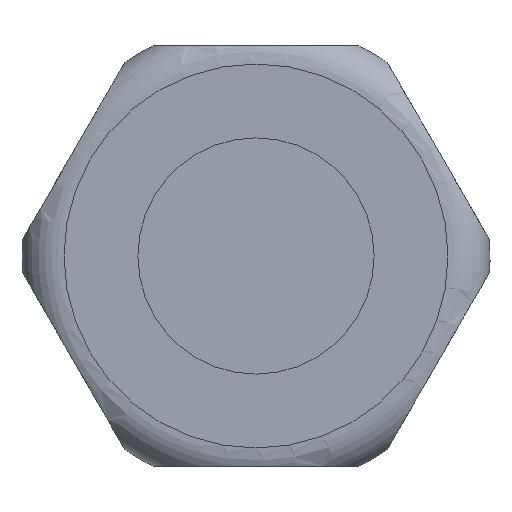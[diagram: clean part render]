
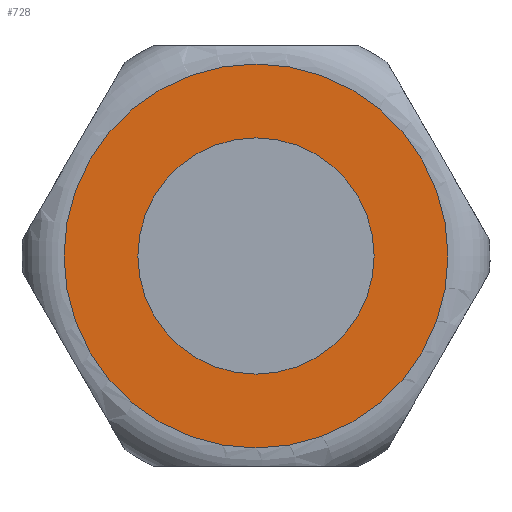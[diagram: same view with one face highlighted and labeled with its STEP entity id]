
A CAD part, left-side view. The second image highlights one B-rep face of the part: STEP entity #728.
In plain terms, the highlighted planar face has unit normal (-1, 0, 0).
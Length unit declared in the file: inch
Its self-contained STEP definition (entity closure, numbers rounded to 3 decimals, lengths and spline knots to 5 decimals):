
#16=FACE_BOUND('',#116,.T.);
#57=PLANE('',#814);
#77=FACE_OUTER_BOUND('',#115,.T.);
#115=EDGE_LOOP('',(#546,#547));
#116=EDGE_LOOP('',(#548,#549));
#199=CIRCLE('',#770,0.31496);
#200=CIRCLE('',#771,0.31496);
#226=CIRCLE('',#815,0.51181);
#227=CIRCLE('',#816,0.51181);
#262=VERTEX_POINT('',#1104);
#263=VERTEX_POINT('',#1105);
#302=VERTEX_POINT('',#1365);
#303=VERTEX_POINT('',#1366);
#336=EDGE_CURVE('',#262,#263,#199,.T.);
#337=EDGE_CURVE('',#263,#262,#200,.T.);
#393=EDGE_CURVE('',#302,#303,#226,.T.);
#394=EDGE_CURVE('',#303,#302,#227,.T.);
#546=ORIENTED_EDGE('',*,*,#393,.F.);
#547=ORIENTED_EDGE('',*,*,#394,.F.);
#548=ORIENTED_EDGE('',*,*,#336,.T.);
#549=ORIENTED_EDGE('',*,*,#337,.T.);
#728=ADVANCED_FACE('',(#77,#16),#57,.T.);
#770=AXIS2_PLACEMENT_3D('',#1106,#873,#874);
#771=AXIS2_PLACEMENT_3D('',#1107,#875,#876);
#814=AXIS2_PLACEMENT_3D('',#1364,#977,#978);
#815=AXIS2_PLACEMENT_3D('',#1367,#979,#980);
#816=AXIS2_PLACEMENT_3D('',#1368,#981,#982);
#873=DIRECTION('center_axis',(1.,0.,0.));
#874=DIRECTION('ref_axis',(0.,0.866,0.5));
#875=DIRECTION('center_axis',(1.,0.,0.));
#876=DIRECTION('ref_axis',(0.,0.866,0.5));
#977=DIRECTION('center_axis',(-1.,0.,0.));
#978=DIRECTION('ref_axis',(0.,0.866,0.5));
#979=DIRECTION('center_axis',(1.,0.,0.));
#980=DIRECTION('ref_axis',(0.,-0.866,-0.5));
#981=DIRECTION('center_axis',(1.,0.,0.));
#982=DIRECTION('ref_axis',(0.,-0.866,-0.5));
#1104=CARTESIAN_POINT('',(-2.39188,0.37407,-0.18686));
#1105=CARTESIAN_POINT('',(-2.39188,-0.17146,-0.50182));
#1106=CARTESIAN_POINT('Origin',(-2.39188,0.1013,-0.34434));
#1107=CARTESIAN_POINT('Origin',(-2.39188,0.1013,-0.34434));
#1364=CARTESIAN_POINT('Origin',(-2.39188,-0.34194,-0.60025));
#1365=CARTESIAN_POINT('',(-2.39188,-0.34194,-0.60025));
#1366=CARTESIAN_POINT('',(-2.39188,0.54454,-0.08844));
#1367=CARTESIAN_POINT('Origin',(-2.39188,0.1013,-0.34434));
#1368=CARTESIAN_POINT('Origin',(-2.39188,0.1013,-0.34434));
